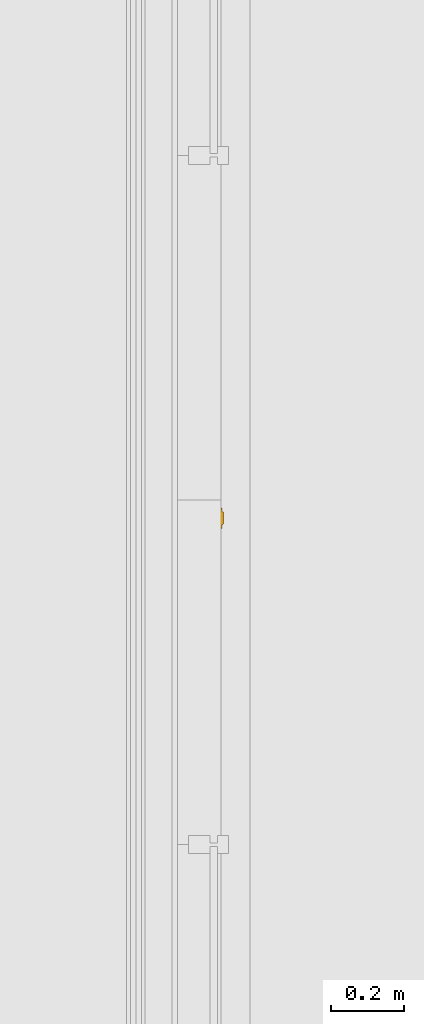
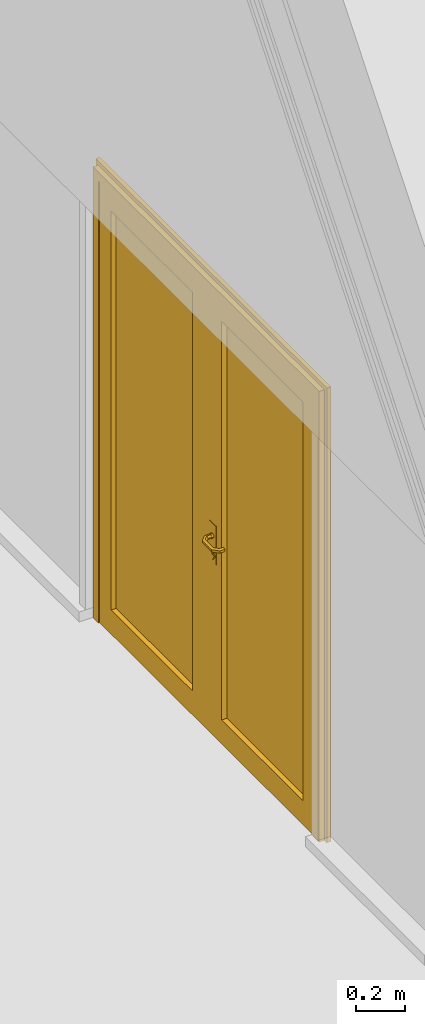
# One storey, part 245 of 260: 1 door, 1 element without a shape of its own.
"""IFC2X3 building model written with IfcOpenShell, lengths in millimetres."""

from ifc_helpers import new_model, entity, si_unit, converted_unit, derived_unit, money_unit, direction, frame, origin_with_axes, place, context, subcontext, project, spatial, open_shell, faceted_brep, surface_model, material, material_list, type_object, element, aggregate, save


model = new_model("IFC2X3")

# Units and contexts
model_context = context("Model", 3, precision=0.01, world=origin_with_axes(), true_north=direction((0.0, 1.0)))
body_context = subcontext(model_context, "Body", "Model", "MODEL_VIEW")
ifc_project = project(units=[si_unit("LENGTHUNIT", "METRE", prefix="MILLI"), si_unit("AREAUNIT", "SQUARE_METRE"), si_unit("VOLUMEUNIT", "CUBIC_METRE"), converted_unit("PLANEANGLEUNIT", "DEGREE", entity("IfcPlaneAngleMeasure", 0.0174532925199), si_unit("PLANEANGLEUNIT", "RADIAN"), dimensions=[0, 0, 0, 0, 0, 0, 0]), money_unit("EUR"), converted_unit("TIMEUNIT", "Year", entity("IfcTimeMeasure", 31556926.0), si_unit("TIMEUNIT", "SECOND"), dimensions=[0, 0, 1, 0, 0, 0, 0]), si_unit("MASSUNIT", "GRAM", prefix="KILO"), si_unit("THERMODYNAMICTEMPERATUREUNIT", "DEGREE_CELSIUS"), si_unit("LUMINOUSINTENSITYUNIT", "LUMEN"), si_unit("ENERGYUNIT", "JOULE", prefix="MEGA"), derived_unit("THERMALCONDUCTANCEUNIT", [(si_unit("POWERUNIT", "WATT"), 1), (si_unit("LENGTHUNIT", "METRE"), -1), (si_unit("THERMODYNAMICTEMPERATUREUNIT", "KELVIN"), -1)]), derived_unit("SPECIFICHEATCAPACITYUNIT", [(si_unit("ENERGYUNIT", "JOULE"), 1), (si_unit("MASSUNIT", "GRAM", prefix="KILO"), -1), (si_unit("THERMODYNAMICTEMPERATUREUNIT", "KELVIN"), -1)]), derived_unit("MASSDENSITYUNIT", [(si_unit("MASSUNIT", "GRAM", prefix="KILO"), 1), (si_unit("VOLUMEUNIT", "CUBIC_METRE"), -1)])], contexts=[model_context])

# Site, building, storey
site_placement = place(None, origin_with_axes())
site = spatial("IfcSite", under=ifc_project, at=site_placement, Name="Kolde pst 67a", CompositionType="ELEMENT")
building_placement = place(site_placement, origin_with_axes())
building = spatial("IfcBuilding", under=site, at=building_placement, Name="Riigigümnaasium", CompositionType="ELEMENT")
storey_placement = place(building_placement, origin_with_axes())
storey = spatial("IfcBuildingStorey", under=building, at=storey_placement, Name="1. korrus", CompositionType="ELEMENT", Elevation=0.0)

# Curtain wall, door
curtain_wall_type = type_object("IfcCurtainWallType", Name="Curtain Wall Type", PredefinedType="NOTDEFINED")
curtain_wall_placement = place(storey_placement, frame((31790.0027795, 49434.9164747, -6.11802017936e-05), z_axis=(0.0, 0.0, 1.0), x_axis=(1.0, 0.0, 0.0)))
curtain_wall = element("IfcCurtainWall", 1, at=curtain_wall_placement, inside=storey, type_object=curtain_wall_type, Name="KLAASSEIN")
ifc_material_1 = material(Name="_METALL - alumiinium")
ifc_material_2 = material(Name="_KLAAS - kirgas")
ifc_material_3 = material(Name="_METALL - roostevaba terasleht, harjatud, 1mm")
ifc_material_list = material_list([ifc_material_1, ifc_material_2, ifc_material_3])
door_style = type_object("IfcDoorStyle", Name="945 x 2270 x 20", ConstructionType="NOTDEFINED", OperationType="DOUBLE_DOOR_SINGLE_SWING", ParameterTakesPrecedence=False, Sizeable=False)
door_placement = place(curtain_wall_placement, frame((0.0, 2375.0, 1150.00006753), z_axis=(0.0, 0.0, 1.0), x_axis=(0.0, -1.0, 0.0)))
door = element("IfcDoor", 2, at=door_placement, type_object=door_style, material=ifc_material_list, Name="Klaasseina uks", ObjectType="DOOR", OverallHeight=2250.0, OverallWidth=1850.0, context=body_context, shape_type="SurfaceModel", body=[
    faceted_brep([(-924.999984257, -35.0, -1150.00005066), (-924.999984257, -35.0, 1100.00004697), (-924.999984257, -30.0, 1100.00004697), (-924.999984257, -30.0, -1150.00005066), (-879.999984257, -35.0, -1150.00005066), (-879.999984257, -35.0, 1055.00004697), (-879.999984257, -30.0, 1055.00004697), (-879.999984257, -30.0, -1150.00005066)], [[[0, 1, 2, 3]], [[0, 4, 5, 1]], [[1, 5, 6, 2]], [[3, 2, 6, 7]], [[4, 0, 3, 7]], [[5, 4, 7, 6]]]),
    faceted_brep([(925.00001529, -35.0, 1100.00004697), (880.00001529, -35.0, 1055.00004697), (880.00001529, -30.0, 1055.00004697), (925.00001529, -30.0, 1100.00004697), (-924.999984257, -35.0, 1100.00004697), (-879.999984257, -35.0, 1055.00004697), (-879.999984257, -30.0, 1055.00004697), (-924.999984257, -30.0, 1100.00004697)], [[[0, 1, 2, 3]], [[0, 4, 5, 1]], [[1, 5, 6, 2]], [[3, 2, 6, 7]], [[4, 0, 3, 7]], [[5, 4, 7, 6]]]),
    faceted_brep([(925.00001529, -35.0, -1150.00005066), (880.00001529, -35.0, -1150.00005066), (880.00001529, -30.0, -1150.00005066), (925.00001529, -30.0, -1150.00005066), (925.00001529, -35.0, 1100.00004697), (880.00001529, -35.0, 1055.00004697), (880.00001529, -30.0, 1055.00004697), (925.00001529, -30.0, 1100.00004697)], [[[0, 1, 2, 3]], [[0, 4, 5, 1]], [[1, 5, 6, 2]], [[3, 2, 6, 7]], [[4, 0, 3, 7]], [[5, 4, 7, 6]]]),
    faceted_brep([(-924.999984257, -30.0, -1150.00005066), (-924.999984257, -30.0, 1100.00004697), (-924.999984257, 20.0, 1100.00004697), (-924.999984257, 20.0, -1150.00005066), (-904.999984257, -30.0, -1150.00005066), (-904.999984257, -30.0, 1080.00004697), (-904.999984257, 20.0, 1080.00004697), (-904.999984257, 20.0, -1150.00005066)], [[[0, 1, 2, 3]], [[0, 4, 5, 1]], [[1, 5, 6, 2]], [[3, 2, 6, 7]], [[4, 0, 3, 7]], [[5, 4, 7, 6]]]),
    faceted_brep([(925.00001529, -30.0, 1100.00004697), (905.00001529, -30.0, 1080.00004697), (905.00001529, 20.0, 1080.00004697), (925.00001529, 20.0, 1100.00004697), (-924.999984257, -30.0, 1100.00004697), (-904.999984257, -30.0, 1080.00004697), (-904.999984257, 20.0, 1080.00004697), (-924.999984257, 20.0, 1100.00004697)], [[[0, 1, 2, 3]], [[0, 4, 5, 1]], [[1, 5, 6, 2]], [[3, 2, 6, 7]], [[4, 0, 3, 7]], [[5, 4, 7, 6]]]),
    faceted_brep([(925.00001529, -30.0, -1150.00005066), (905.00001529, -30.0, -1150.00005066), (905.00001529, 20.0, -1150.00005066), (925.00001529, 20.0, -1150.00005066), (925.00001529, -30.0, 1100.00004697), (905.00001529, -30.0, 1080.00004697), (905.00001529, 20.0, 1080.00004697), (925.00001529, 20.0, 1100.00004697)], [[[0, 1, 2, 3]], [[0, 4, 5, 1]], [[1, 5, 6, 2]], [[3, 2, 6, 7]], [[4, 0, 3, 7]], [[5, 4, 7, 6]]]),
    faceted_brep([(-944.999992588, -10.0, -1150.00005066), (-944.999992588, -10.0, 1120.0000553), (-944.999992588, 10.0, 1120.0000553), (-944.999992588, 10.0, -1150.00005066), (-924.999984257, -10.0, -1150.00005066), (-924.999984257, -10.0, 1100.00004697), (-924.999984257, 10.0, 1100.00004697), (-924.999984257, 10.0, -1150.00005066)], [[[0, 1, 2, 3]], [[0, 4, 5, 1]], [[1, 5, 6, 2]], [[3, 2, 6, 7]], [[4, 0, 3, 7]], [[5, 4, 7, 6]]]),
    faceted_brep([(-944.999992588, -10.0, 1120.0000553), (944.999989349, -10.0, 1120.0000553), (944.999989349, 10.0, 1120.0000553), (-944.999992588, 10.0, 1120.0000553), (-924.999984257, -10.0, 1100.00004697), (925.00001529, -10.0, 1100.00004697), (925.00001529, 10.0, 1100.00004697), (-924.999984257, 10.0, 1100.00004697)], [[[0, 1, 2, 3]], [[0, 4, 5, 1]], [[1, 5, 6, 2]], [[3, 2, 6, 7]], [[4, 0, 3, 7]], [[5, 4, 7, 6]]]),
    faceted_brep([(944.999989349, -10.0, 1120.0000553), (944.999989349, -10.0, -1150.00005066), (944.999989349, 10.0, -1150.00005066), (944.999989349, 10.0, 1120.0000553), (925.00001529, -10.0, 1100.00004697), (925.00001529, -10.0, -1150.00005066), (925.00001529, 10.0, -1150.00005066), (925.00001529, 10.0, 1100.00004697)], [[[0, 1, 2, 3]], [[0, 4, 5, 1]], [[1, 5, 6, 2]], [[3, 2, 6, 7]], [[4, 0, 3, 7]], [[5, 4, 7, 6]]]),
    faceted_brep([(785.00001529, -30.0, -1030.00005066), (785.00001529, -30.0, 960.000046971), (785.00001529, 20.0, 960.000046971), (785.00001529, 20.0, -1030.00005066), (905.00001529, -30.0, -1150.00005066), (905.00001529, -30.0, 1080.00004697), (905.00001529, 20.0, 1080.00004697), (905.00001529, 20.0, -1150.00005066)], [[[0, 1, 2, 3]], [[0, 4, 5, 1]], [[1, 5, 6, 2]], [[3, 2, 6, 7]], [[4, 0, 3, 7]], [[5, 4, 7, 6]]]),
    faceted_brep([(1.55166546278e-05, -30.0, -1150.00005066), (1.55166546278e-05, -30.0, 1080.00004697), (1.55166546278e-05, 20.0, 1080.00004697), (1.55166546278e-05, 20.0, -1150.00005066), (120.000015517, -30.0, -1030.00005066), (120.000015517, -30.0, 960.000046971), (120.000015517, 20.0, 960.000046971), (120.000015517, 20.0, -1030.00005066)], [[[0, 1, 2, 3]], [[0, 4, 5, 1]], [[1, 5, 6, 2]], [[3, 2, 6, 7]], [[4, 0, 3, 7]], [[5, 4, 7, 6]]]),
    faceted_brep([(1.55166546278e-05, -30.0, -1150.00005066), (120.000015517, -30.0, -1030.00005066), (120.000015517, 20.0, -1030.00005066), (1.55166546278e-05, 20.0, -1150.00005066), (905.00001529, -30.0, -1150.00005066), (785.00001529, -30.0, -1030.00005066), (785.00001529, 20.0, -1030.00005066), (905.00001529, 20.0, -1150.00005066)], [[[0, 1, 2, 3]], [[0, 4, 5, 1]], [[1, 5, 6, 2]], [[3, 2, 6, 7]], [[4, 0, 3, 7]], [[5, 4, 7, 6]]]),
    faceted_brep([(905.00001529, -30.0, 1080.00004697), (785.00001529, -30.0, 960.000046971), (785.00001529, 20.0, 960.000046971), (905.00001529, 20.0, 1080.00004697), (1.55166546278e-05, -30.0, 1080.00004697), (120.000015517, -30.0, 960.000046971), (120.000015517, 20.0, 960.000046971), (1.55166546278e-05, 20.0, 1080.00004697)], [[[0, 1, 2, 3]], [[0, 4, 5, 1]], [[1, 5, 6, 2]], [[3, 2, 6, 7]], [[4, 0, 3, 7]], [[5, 4, 7, 6]]]),
    faceted_brep([(785.00001529, -6.0, -1030.00005066), (120.000015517, -6.0, -1030.00005066), (120.000015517, 10.0, -1030.00005066), (785.00001529, 10.0, -1030.00005066), (785.00001529, -6.0, 960.000046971), (120.000015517, -6.0, 960.000046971), (120.000015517, 10.0, 960.000046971), (785.00001529, 10.0, 960.000046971)], [[[0, 1, 2, 3]], [[0, 4, 5, 1]], [[1, 5, 6, 2]], [[3, 2, 6, 7]], [[4, 0, 3, 7]], [[5, 4, 7, 6]]]),
    faceted_brep([(21.5000155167, 20.0, -90.000050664), (78.5000155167, 20.0, -90.000050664), (78.5000155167, 23.0, -90.000050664), (21.5000155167, 23.0, -90.000050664), (21.5000155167, 20.0, -280.000050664), (78.5000155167, 20.0, -280.000050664), (78.5000155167, 23.0, -280.000050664), (21.5000155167, 23.0, -280.000050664)], [[[0, 1, 2, 3]], [[0, 4, 5, 1]], [[1, 5, 6, 2]], [[3, 2, 6, 7]], [[4, 0, 3, 7]], [[5, 4, 7, 6]]]),
    faceted_brep([(53.7082194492, 33.0, -161.41272886), (62.0000155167, 33.0, -150.000050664), (63.0000155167, 23.0, -150.000050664), (54.0172364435, 23.0, -162.363785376), (40.2918115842, 33.0, -157.053473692), (40.2918115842, 33.0, -142.946627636), (53.7082194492, 33.0, -138.587372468), (54.0172364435, 23.0, -137.636315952), (39.4827945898, 23.0, -142.358842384), (39.4827945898, 23.0, -157.641258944)], [[[0, 1, 2, 3]], [[1, 0, 4, 5, 6]], [[1, 6, 7, 2]], [[2, 7, 8, 9, 3]], [[4, 0, 3, 9]], [[5, 4, 9, 8]], [[6, 5, 8, 7]]]),
    faceted_brep([(56.1803554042, 27.0, -264.02118099), (70.0000155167, 27.0, -245.000050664), (72.0000155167, 23.0, -245.000050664), (56.7983893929, 23.0, -265.923294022), (33.8196756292, 27.0, -256.75575571), (33.8196756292, 27.0, -233.244345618), (56.1803554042, 27.0, -225.978920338), (56.7983893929, 23.0, -224.076807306), (32.2016416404, 23.0, -232.068775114), (32.2016416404, 23.0, -257.931326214)], [[[0, 1, 2, 3]], [[1, 0, 4, 5, 6]], [[1, 6, 7, 2]], [[2, 7, 8, 9, 3]], [[4, 0, 3, 9]], [[5, 4, 9, 8]], [[6, 5, 8, 7]]]),
    faceted_brep([(52.1631344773, 29.0, -242.657446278), (57.0000155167, 29.0, -236.000050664), (58.0000155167, 27.0, -236.000050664), (52.4721514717, 27.0, -243.608502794), (44.336896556, 29.0, -240.11454743), (44.336896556, 29.0, -231.885553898), (52.1631344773, 29.0, -229.34265505), (52.4721514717, 27.0, -228.391598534), (43.5278795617, 27.0, -231.297768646), (43.5278795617, 27.0, -240.702332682)], [[[0, 1, 2, 3]], [[1, 0, 4, 5, 6]], [[1, 6, 7, 2]], [[2, 7, 8, 9, 3]], [[4, 0, 3, 9]], [[5, 4, 9, 8]], [[6, 5, 8, 7]]]),
    surface_model("IfcShellBasedSurfaceModel", [(60.0000155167, 33.0, -150.000050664), (53.0901854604, 33.0, -159.510615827), (53.0901854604, 51.7200096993, -159.510615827), (60.0000155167, 48.8578643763, -150.000050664), (41.9098455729, 33.0, -155.877903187), (41.9098455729, 56.3510581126, -155.877903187), (71.2800058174, 69.9098300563, -159.510615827), (74.1421511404, 63.0, -150.000050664), (53.0901854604, 33.0, -140.489485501), (53.0901854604, 51.7200096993, -140.489485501), (41.9098455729, 33.0, -144.122198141), (41.9098455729, 56.3510581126, -144.122198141), (66.648957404, 81.0901699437, -155.877903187), (138.720025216, 69.9098300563, -159.510615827), (135.857879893, 63.0, -150.000050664), (71.2800058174, 69.9098300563, -140.489485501), (66.648957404, 81.0901699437, -144.122198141), (143.351073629, 81.0901699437, -155.877903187), (156.909845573, 51.7200096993, -159.510615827), (150.000015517, 48.8578643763, -150.000050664), (138.720025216, 69.9098300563, -140.489485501), (143.351073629, 81.0901699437, -144.122198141), (168.09018546, 56.3510581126, -155.877903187), (156.909845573, 33.0, -159.510615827), (150.000015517, 33.0, -150.000050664), (156.909845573, 51.7200096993, -140.489485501), (168.09018546, 56.3510581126, -144.122198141), (168.09018546, 33.0, -155.877903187), (168.09018546, 33.0, -144.122198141), (156.909845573, 33.0, -140.489485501)], [open_shell([[[0, 1, 2, 3]], [[1, 4, 5, 2]], [[3, 2, 6, 7]], [[8, 0, 3, 9]], [[4, 10, 11, 5]], [[2, 5, 12, 6]], [[7, 6, 13, 14]], [[9, 3, 7, 15]], [[10, 8, 9, 11]], [[5, 11, 16, 12]], [[6, 12, 17, 13]], [[14, 13, 18, 19]], [[15, 7, 14, 20]], [[11, 9, 15, 16]], [[12, 16, 21, 17]], [[13, 17, 22, 18]], [[19, 18, 23, 24]], [[20, 14, 19, 25]], [[16, 15, 20, 21]], [[17, 21, 26, 22]], [[18, 22, 27, 23]], [[24, 23, 27, 28, 29]], [[25, 19, 24, 29]], [[21, 20, 25, 26]], [[22, 26, 28, 27]], [[26, 25, 29, 28]]])]),
    faceted_brep([(21.5000155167, -30.0, -90.000050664), (21.5000155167, -33.0, -90.000050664), (78.5000155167, -33.0, -90.000050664), (78.5000155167, -30.0, -90.000050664), (21.5000155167, -30.0, -280.000050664), (21.5000155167, -33.0, -280.000050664), (78.5000155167, -33.0, -280.000050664), (78.5000155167, -30.0, -280.000050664)], [[[0, 1, 2, 3]], [[4, 5, 1, 0]], [[1, 5, 6, 2]], [[3, 2, 6, 7]], [[0, 3, 7, 4]], [[7, 6, 5, 4]]]),
    faceted_brep([(53.7082194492, -43.0, -161.41272886), (54.0172364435, -33.0, -162.363785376), (63.0000155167, -33.0, -150.000050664), (62.0000155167, -43.0, -150.000050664), (40.2918115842, -43.0, -157.053473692), (39.4827945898, -33.0, -157.641258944), (39.4827945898, -33.0, -142.358842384), (54.0172364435, -33.0, -137.636315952), (53.7082194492, -43.0, -138.587372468), (40.2918115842, -43.0, -142.946627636)], [[[0, 1, 2, 3]], [[4, 5, 1, 0]], [[2, 1, 5, 6, 7]], [[3, 2, 7, 8]], [[3, 8, 9, 4, 0]], [[9, 6, 5, 4]], [[8, 7, 6, 9]]]),
    faceted_brep([(56.1803554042, -37.0, -264.02118099), (56.7983893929, -33.0, -265.923294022), (72.0000155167, -33.0, -245.000050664), (70.0000155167, -37.0, -245.000050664), (33.8196756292, -37.0, -256.75575571), (32.2016416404, -33.0, -257.931326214), (32.2016416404, -33.0, -232.068775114), (56.7983893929, -33.0, -224.076807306), (56.1803554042, -37.0, -225.978920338), (33.8196756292, -37.0, -233.244345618)], [[[0, 1, 2, 3]], [[4, 5, 1, 0]], [[2, 1, 5, 6, 7]], [[3, 2, 7, 8]], [[3, 8, 9, 4, 0]], [[9, 6, 5, 4]], [[8, 7, 6, 9]]]),
    faceted_brep([(52.1631344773, -39.0, -242.657446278), (52.4721514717, -37.0, -243.608502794), (58.0000155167, -37.0, -236.000050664), (57.0000155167, -39.0, -236.000050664), (44.336896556, -39.0, -240.11454743), (43.5278795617, -37.0, -240.702332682), (43.5278795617, -37.0, -231.297768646), (52.4721514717, -37.0, -228.391598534), (52.1631344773, -39.0, -229.34265505), (44.336896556, -39.0, -231.885553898)], [[[0, 1, 2, 3]], [[4, 5, 1, 0]], [[2, 1, 5, 6, 7]], [[3, 2, 7, 8]], [[3, 8, 9, 4, 0]], [[9, 6, 5, 4]], [[8, 7, 6, 9]]]),
    surface_model("IfcShellBasedSurfaceModel", [(60.0000155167, -43.0, -150.000050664), (60.0000155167, -58.8578643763, -150.000050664), (53.0901854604, -61.7200096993, -159.510615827), (53.0901854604, -43.0, -159.510615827), (53.0901854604, -43.0, -140.489485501), (53.0901854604, -61.7200096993, -140.489485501), (74.1421511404, -73.0, -150.000050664), (71.2800058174, -79.9098300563, -159.510615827), (41.9098455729, -66.3510581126, -155.877903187), (41.9098455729, -43.0, -155.877903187), (41.9098455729, -43.0, -144.122198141), (41.9098455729, -66.3510581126, -144.122198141), (71.2800058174, -79.9098300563, -140.489485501), (135.857879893, -73.0, -150.000050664), (138.720025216, -79.9098300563, -159.510615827), (66.648957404, -91.0901699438, -155.877903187), (66.648957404, -91.0901699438, -144.122198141), (138.720025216, -79.9098300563, -140.489485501), (150.000015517, -58.8578643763, -150.000050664), (156.909845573, -61.7200096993, -159.510615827), (143.351073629, -91.0901699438, -155.877903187), (143.351073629, -91.0901699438, -144.122198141), (156.909845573, -61.7200096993, -140.489485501), (150.000015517, -43.0, -150.000050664), (156.909845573, -43.0, -159.510615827), (168.09018546, -66.3510581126, -155.877903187), (168.09018546, -66.3510581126, -144.122198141), (156.909845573, -43.0, -140.489485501), (168.09018546, -43.0, -144.122198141), (168.09018546, -43.0, -155.877903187)], [open_shell([[[0, 1, 2, 3]], [[4, 5, 1, 0]], [[1, 6, 7, 2]], [[3, 2, 8, 9]], [[10, 11, 5, 4]], [[5, 12, 6, 1]], [[6, 13, 14, 7]], [[2, 7, 15, 8]], [[9, 8, 11, 10]], [[11, 16, 12, 5]], [[12, 17, 13, 6]], [[13, 18, 19, 14]], [[7, 14, 20, 15]], [[8, 15, 16, 11]], [[16, 21, 17, 12]], [[17, 22, 18, 13]], [[18, 23, 24, 19]], [[14, 19, 25, 20]], [[15, 20, 21, 16]], [[21, 26, 22, 17]], [[22, 27, 23, 18]], [[23, 27, 28, 29, 24]], [[19, 24, 29, 25]], [[20, 25, 26, 21]], [[26, 28, 27, 22]], [[25, 29, 28, 26]]])]),
    faceted_brep([(-119.999984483, -30.0, -1030.00005066), (-119.999984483, -30.0, 960.000046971), (-119.999984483, 20.0, 960.000046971), (-119.999984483, 20.0, -1030.00005066), (1.55166546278e-05, -30.0, -1150.00005066), (1.55166546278e-05, -30.0, 1080.00004697), (1.55166546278e-05, 20.0, 1080.00004697), (1.55166546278e-05, 20.0, -1150.00005066)], [[[0, 1, 2, 3]], [[0, 4, 5, 1]], [[1, 5, 6, 2]], [[3, 2, 6, 7]], [[4, 0, 3, 7]], [[5, 4, 7, 6]]]),
    faceted_brep([(-904.999984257, -30.0, -1150.00005066), (-904.999984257, -30.0, 1080.00004697), (-904.999984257, 20.0, 1080.00004697), (-904.999984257, 20.0, -1150.00005066), (-784.999984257, -30.0, -1030.00005066), (-784.999984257, -30.0, 960.000046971), (-784.999984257, 20.0, 960.000046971), (-784.999984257, 20.0, -1030.00005066)], [[[0, 1, 2, 3]], [[0, 4, 5, 1]], [[1, 5, 6, 2]], [[3, 2, 6, 7]], [[4, 0, 3, 7]], [[5, 4, 7, 6]]]),
    faceted_brep([(-904.999984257, -30.0, -1150.00005066), (-784.999984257, -30.0, -1030.00005066), (-784.999984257, 20.0, -1030.00005066), (-904.999984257, 20.0, -1150.00005066), (1.55166546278e-05, -30.0, -1150.00005066), (-119.999984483, -30.0, -1030.00005066), (-119.999984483, 20.0, -1030.00005066), (1.55166546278e-05, 20.0, -1150.00005066)], [[[0, 1, 2, 3]], [[0, 4, 5, 1]], [[1, 5, 6, 2]], [[3, 2, 6, 7]], [[4, 0, 3, 7]], [[5, 4, 7, 6]]]),
    faceted_brep([(1.55166546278e-05, -30.0, 1080.00004697), (-119.999984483, -30.0, 960.000046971), (-119.999984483, 20.0, 960.000046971), (1.55166546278e-05, 20.0, 1080.00004697), (-904.999984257, -30.0, 1080.00004697), (-784.999984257, -30.0, 960.000046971), (-784.999984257, 20.0, 960.000046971), (-904.999984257, 20.0, 1080.00004697)], [[[0, 1, 2, 3]], [[0, 4, 5, 1]], [[1, 5, 6, 2]], [[3, 2, 6, 7]], [[4, 0, 3, 7]], [[5, 4, 7, 6]]]),
    faceted_brep([(-119.999984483, -6.0, -1030.00005066), (-784.999984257, -6.0, -1030.00005066), (-784.999984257, 10.0, -1030.00005066), (-119.999984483, 10.0, -1030.00005066), (-119.999984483, -6.0, 960.000046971), (-784.999984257, -6.0, 960.000046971), (-784.999984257, 10.0, 960.000046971), (-119.999984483, 10.0, 960.000046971)], [[[0, 1, 2, 3]], [[0, 4, 5, 1]], [[1, 5, 6, 2]], [[3, 2, 6, 7]], [[4, 0, 3, 7]], [[5, 4, 7, 6]]]),
])
aggregate(curtain_wall, [door])

save(model, "model.ifc")
